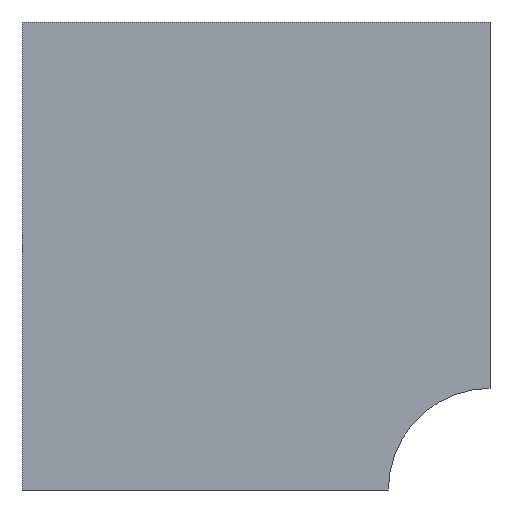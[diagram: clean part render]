
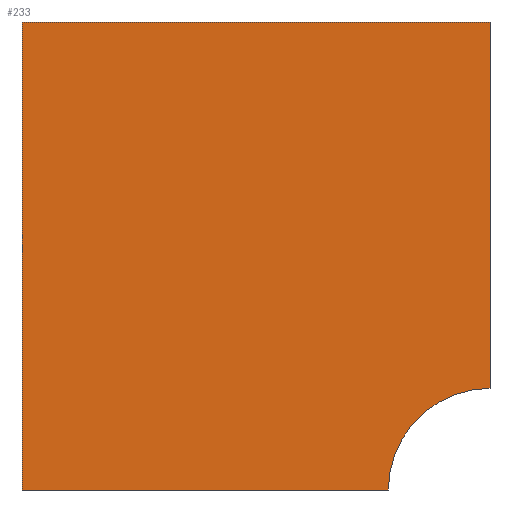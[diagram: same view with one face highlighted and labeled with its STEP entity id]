
A CAD part, left-side view. The second image highlights one B-rep face of the part: STEP entity #233.
In plain terms, the highlighted planar face has unit normal (-1, 0, 0).
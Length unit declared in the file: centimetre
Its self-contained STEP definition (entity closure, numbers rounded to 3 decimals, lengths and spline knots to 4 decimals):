
#22 = LINE ( 'NONE', #35, #935 ) ;
#26 = LINE ( 'NONE', #791, #720 ) ;
#27 = DIRECTION ( 'NONE',  ( 0., -1., 0. ) ) ;
#35 = CARTESIAN_POINT ( 'NONE',  ( 0., 1000., 0. ) ) ;
#47 = EDGE_CURVE ( 'NONE', #497, #155, #26, .T. ) ;
#54 = EDGE_CURVE ( 'NONE', #909, #283, #867, .T. ) ;
#83 = AXIS2_PLACEMENT_3D ( 'NONE', #340, #189, #649 ) ;
#123 = LINE ( 'NONE', #425, #267 ) ;
#128 = DIRECTION ( 'NONE',  ( 0., 0., 1. ) ) ;
#155 = VERTEX_POINT ( 'NONE', #319 ) ;
#184 = CARTESIAN_POINT ( 'NONE',  ( 0., 0., 1000. ) ) ;
#189 = DIRECTION ( 'NONE',  ( 1., 0., 0. ) ) ;
#198 = CARTESIAN_POINT ( 'NONE',  ( 0., 0., 217.2452 ) ) ;
#233 = ADVANCED_FACE ( 'NONE', ( #495 ), #725, .F. ) ;
#259 = DIRECTION ( 'NONE',  ( 0., 0., -1. ) ) ;
#265 = ORIENTED_EDGE ( 'NONE', *, *, #47, .T. ) ;
#267 = VECTOR ( 'NONE', #662, 100. ) ;
#283 = VERTEX_POINT ( 'NONE', #198 ) ;
#319 = CARTESIAN_POINT ( 'NONE',  ( 0., 1000., 0. ) ) ;
#339 = CARTESIAN_POINT ( 'NONE',  ( 0., 0., 0. ) ) ;
#340 = CARTESIAN_POINT ( 'NONE',  ( 0., 1000., 1000. ) ) ;
#370 = CARTESIAN_POINT ( 'NONE',  ( 0., 0., 1000. ) ) ;
#379 = VERTEX_POINT ( 'NONE', #676 ) ;
#386 = ORIENTED_EDGE ( 'NONE', *, *, #588, .F. ) ;
#425 = CARTESIAN_POINT ( 'NONE',  ( 0., 1000., 1000. ) ) ;
#451 = ORIENTED_EDGE ( 'NONE', *, *, #536, .F. ) ;
#457 = ORIENTED_EDGE ( 'NONE', *, *, #696, .T. ) ;
#495 = FACE_OUTER_BOUND ( 'NONE', #986, .T. ) ;
#497 = VERTEX_POINT ( 'NONE', #724 ) ;
#536 = EDGE_CURVE ( 'NONE', #283, #379, #672, .T. ) ;
#555 = VECTOR ( 'NONE', #797, 100. ) ;
#588 = EDGE_CURVE ( 'NONE', #497, #909, #123, .T. ) ;
#649 = DIRECTION ( 'NONE',  ( 0., 0., -1. ) ) ;
#662 = DIRECTION ( 'NONE',  ( 0., -1., 0. ) ) ;
#672 = CIRCLE ( 'NONE', #745, 217.2452 ) ;
#676 = CARTESIAN_POINT ( 'NONE',  ( 0., 217.2452, 0. ) ) ;
#696 = EDGE_CURVE ( 'NONE', #155, #379, #22, .T. ) ;
#720 = VECTOR ( 'NONE', #259, 100. ) ;
#724 = CARTESIAN_POINT ( 'NONE',  ( 0., 1000., 1000. ) ) ;
#725 = PLANE ( 'NONE',  #83 ) ;
#745 = AXIS2_PLACEMENT_3D ( 'NONE', #339, #879, #128 ) ;
#791 = CARTESIAN_POINT ( 'NONE',  ( 0., 1000., 1000. ) ) ;
#797 = DIRECTION ( 'NONE',  ( 0., 0., -1. ) ) ;
#833 = ORIENTED_EDGE ( 'NONE', *, *, #54, .F. ) ;
#867 = LINE ( 'NONE', #184, #555 ) ;
#879 = DIRECTION ( 'NONE',  ( -1., 0., 0. ) ) ;
#909 = VERTEX_POINT ( 'NONE', #370 ) ;
#935 = VECTOR ( 'NONE', #27, 100. ) ;
#986 = EDGE_LOOP ( 'NONE', ( #457, #451, #833, #386, #265 ) ) ;
